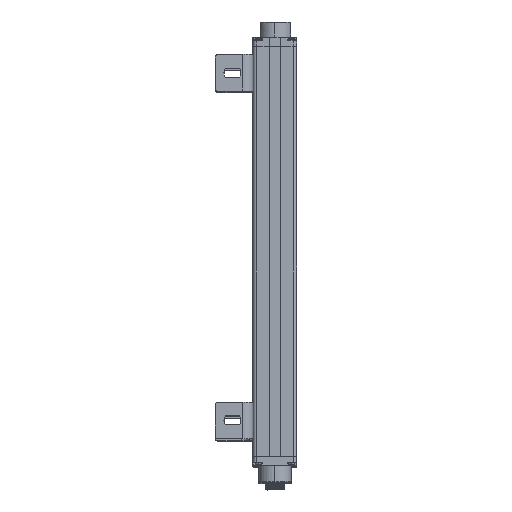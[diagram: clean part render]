
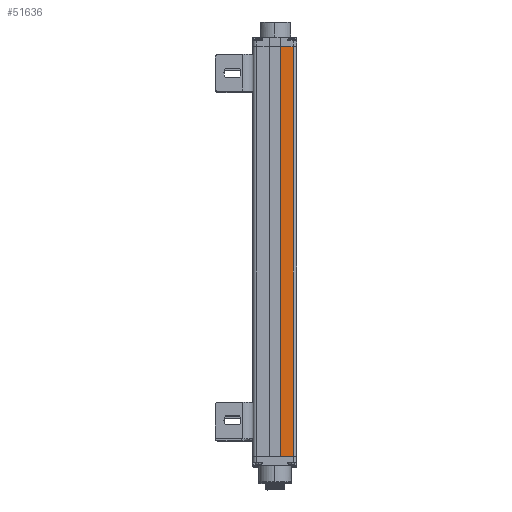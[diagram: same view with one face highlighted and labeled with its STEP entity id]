
A CAD part, top view. The second image highlights one B-rep face of the part: STEP entity #51636.
In plain terms, the highlighted planar face has unit normal (0, 0.001, 1).
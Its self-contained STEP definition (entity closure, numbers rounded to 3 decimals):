
#5112 = VERTEX_POINT ( 'NONE', #51144 ) ;
#5985 = EDGE_CURVE ( 'NONE', #119173, #19984, #82556, .T. ) ;
#7681 = VECTOR ( 'NONE', #65162, 1000. ) ;
#12715 = VECTOR ( 'NONE', #106390, 1000. ) ;
#19984 = VERTEX_POINT ( 'NONE', #109568 ) ;
#24301 = ORIENTED_EDGE ( 'NONE', *, *, #157290, .F. ) ;
#26572 = EDGE_LOOP ( 'NONE', ( #112066, #128700, #176504, #24301 ) ) ;
#36948 = VERTEX_POINT ( 'NONE', #168112 ) ;
#49208 = EDGE_CURVE ( 'NONE', #36948, #119173, #149678, .T. ) ;
#49351 = LINE ( 'NONE', #120916, #116055 ) ;
#51144 = CARTESIAN_POINT ( 'NONE',  ( 12.89, 325., 25.075 ) ) ;
#51636 = ADVANCED_FACE ( 'NONE', ( #67569 ), #161828, .T. ) ;
#61538 = EDGE_CURVE ( 'NONE', #5112, #19984, #49351, .T. ) ;
#65162 = DIRECTION ( 'NONE',  ( 0., -1., 0. ) ) ;
#67569 = FACE_OUTER_BOUND ( 'NONE', #26572, .T. ) ;
#78651 = DIRECTION ( 'NONE',  ( 1., 0., 0. ) ) ;
#82556 = LINE ( 'NONE', #161922, #144733 ) ;
#88318 = LINE ( 'NONE', #162889, #12715 ) ;
#92270 = DIRECTION ( 'NONE',  ( 0., 0., 1. ) ) ;
#104863 = CARTESIAN_POINT ( 'NONE',  ( 3.005, 0., 25.075 ) ) ;
#106390 = DIRECTION ( 'NONE',  ( 1., 0., 0. ) ) ;
#109568 = CARTESIAN_POINT ( 'NONE',  ( 12.89, 0., 25.075 ) ) ;
#112066 = ORIENTED_EDGE ( 'NONE', *, *, #49208, .T. ) ;
#115255 = AXIS2_PLACEMENT_3D ( 'NONE', #175540, #92270, #78651 ) ;
#116055 = VECTOR ( 'NONE', #119090, 1000. ) ;
#119090 = DIRECTION ( 'NONE',  ( 0., -1., 0. ) ) ;
#119173 = VERTEX_POINT ( 'NONE', #104863 ) ;
#120916 = CARTESIAN_POINT ( 'NONE',  ( 12.89, 0., 25.075 ) ) ;
#122921 = CARTESIAN_POINT ( 'NONE',  ( 3.005, 0., 25.075 ) ) ;
#128700 = ORIENTED_EDGE ( 'NONE', *, *, #5985, .T. ) ;
#132793 = DIRECTION ( 'NONE',  ( 1., 0., 0. ) ) ;
#144733 = VECTOR ( 'NONE', #132793, 1000. ) ;
#149678 = LINE ( 'NONE', #122921, #7681 ) ;
#157290 = EDGE_CURVE ( 'NONE', #36948, #5112, #88318, .T. ) ;
#161828 = PLANE ( 'NONE',  #115255 ) ;
#161922 = CARTESIAN_POINT ( 'NONE',  ( 3.005, 0., 25.075 ) ) ;
#162889 = CARTESIAN_POINT ( 'NONE',  ( 0., 325., 25.075 ) ) ;
#168112 = CARTESIAN_POINT ( 'NONE',  ( 3.005, 325., 25.075 ) ) ;
#175540 = CARTESIAN_POINT ( 'NONE',  ( 3.005, 0., 25.075 ) ) ;
#176504 = ORIENTED_EDGE ( 'NONE', *, *, #61538, .F. ) ;
